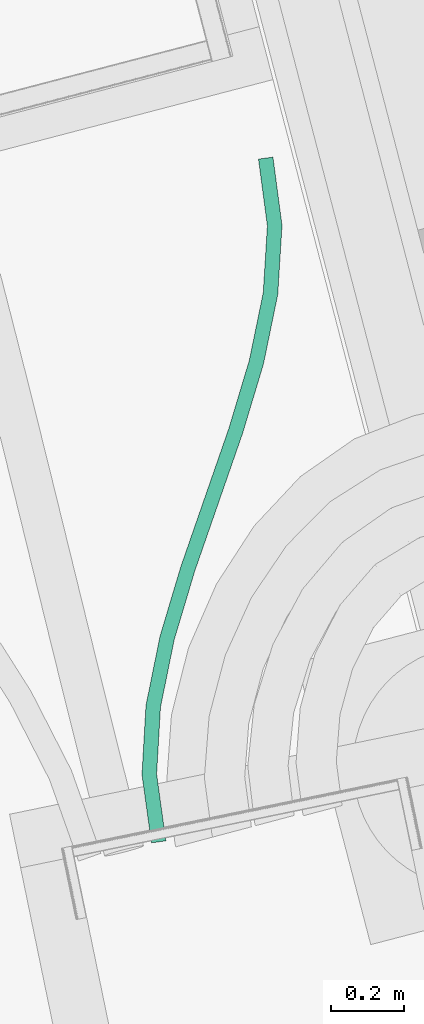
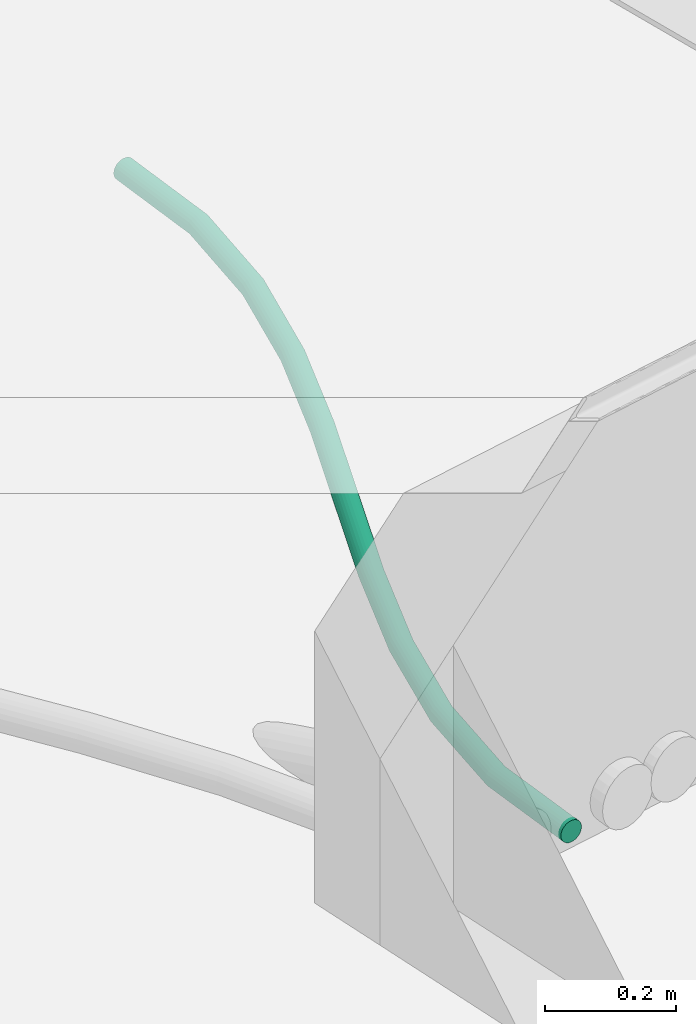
# One storey, part 22 of 29: 1 flow segment.
"""IFC2X3 building model written with IfcOpenShell, lengths in centimetres."""

from ifc_helpers import new_model, entity, si_unit, converted_unit, derived_unit, direction, frame, origin, place, context, subcontext, project, spatial, faceted_brep, type_object, element, save


model = new_model("IFC2X3")

# Units and contexts
model_context = context("Model", 3, precision=0.001, world=origin(), true_north=direction((6.12303176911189e-17, 1.0)))
body_context = subcontext(model_context, "Body", "Model", "MODEL_VIEW")
ifc_project = project(units=[si_unit("LENGTHUNIT", "METRE", prefix="CENTI"), si_unit("AREAUNIT", "SQUARE_METRE"), si_unit("VOLUMEUNIT", "CUBIC_METRE"), converted_unit("PLANEANGLEUNIT", "DEGREE", entity("IfcRatioMeasure", 0.0174532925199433), si_unit("PLANEANGLEUNIT", "RADIAN"), dimensions=[0, 0, 0, 0, 0, 0, 0]), si_unit("MASSUNIT", "GRAM", prefix="KILO"), derived_unit("MASSDENSITYUNIT", [(si_unit("MASSUNIT", "GRAM", prefix="KILO"), 1), (si_unit("LENGTHUNIT", "METRE"), -3)]), si_unit("TIMEUNIT", "SECOND"), si_unit("FREQUENCYUNIT", "HERTZ"), si_unit("THERMODYNAMICTEMPERATUREUNIT", "DEGREE_CELSIUS"), derived_unit("THERMALTRANSMITTANCEUNIT", [(si_unit("MASSUNIT", "GRAM", prefix="KILO"), 1), (si_unit("THERMODYNAMICTEMPERATUREUNIT", "KELVIN"), -1), (si_unit("TIMEUNIT", "SECOND"), -3)]), derived_unit("VOLUMETRICFLOWRATEUNIT", [(si_unit("LENGTHUNIT", "METRE"), 3), (si_unit("TIMEUNIT", "SECOND"), -1)]), si_unit("ELECTRICCURRENTUNIT", "AMPERE"), si_unit("ELECTRICVOLTAGEUNIT", "VOLT"), si_unit("POWERUNIT", "WATT"), si_unit("FORCEUNIT", "NEWTON"), si_unit("ILLUMINANCEUNIT", "LUX"), si_unit("LUMINOUSFLUXUNIT", "LUMEN"), si_unit("LUMINOUSINTENSITYUNIT", "CANDELA"), derived_unit("USERDEFINED", [(si_unit("MASSUNIT", "GRAM", prefix="KILO"), -1), (si_unit("LENGTHUNIT", "METRE"), -2), (si_unit("TIMEUNIT", "SECOND"), 3), (si_unit("LUMINOUSFLUXUNIT", "LUMEN"), 1)]), derived_unit("LINEARVELOCITYUNIT", [(si_unit("LENGTHUNIT", "METRE"), 1), (si_unit("TIMEUNIT", "SECOND"), -1)]), si_unit("PRESSUREUNIT", "PASCAL"), derived_unit("USERDEFINED", [(si_unit("LENGTHUNIT", "METRE"), -2), (si_unit("MASSUNIT", "GRAM", prefix="KILO"), 1), (si_unit("TIMEUNIT", "SECOND"), -2)])], contexts=[model_context])

# Site, building, storey
site_placement = place(None, origin())
site = spatial("IfcSite", under=ifc_project, at=site_placement, Name="Default", CompositionType="ELEMENT")
building_placement = place(site_placement, origin())
building = spatial("IfcBuilding", under=site, at=building_placement, Name="CAGE 03", CompositionType="ELEMENT")
storey_placement = place(building_placement, frame((0.0, 0.0, -34.0)))
storey = spatial("IfcBuildingStorey", under=building, at=storey_placement, Name="+3.66", CompositionType="ELEMENT", Elevation=-34.0000000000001)

# Flow segment
pipe_segment_type = type_object("IfcPipeSegmentType", Name="Canalisation souple arrondie:Flex - Round", PredefinedType="FLEXIBLESEGMENT")
flow_segment_placement = place(storey_placement, frame((11573.2993693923, 3540.52420539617, -78.9095290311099)))
element("IfcFlowSegment", 1, at=flow_segment_placement, inside=storey, type_object=pipe_segment_type, Name="Canalisation souple arrondie:Flex - Round", ObjectType="Canalisation souple arrondie:Flex - Round", context=body_context, shape_type="Brep", body=[
    faceted_brep([(32.123071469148, 187.746982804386, 2.15952683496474), (32.1905800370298, 187.756304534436, 2.67716482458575), (32.3885903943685, 187.782994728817, 3.15952664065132), (32.703608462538, 187.82523449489, 3.57374012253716), (33.1141662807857, 187.880145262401, 3.8915773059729), (33.5922850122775, 187.943984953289, 4.09137811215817), (34.1053816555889, 188.01240299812, 4.15952644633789), (34.618489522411, 188.080736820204, 4.09137811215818), (35.0966411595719, 188.144329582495, 3.8915773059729), (35.5072513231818, 188.198847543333, 3.57374012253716), (35.8223376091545, 188.240575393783, 3.15952664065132), (36.0204274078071, 188.266669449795, 2.67716482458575), (36.0880212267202, 188.275351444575, 2.15952683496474), (36.0205126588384, 188.266029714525, 1.64188884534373), (35.8225023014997, 188.239339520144, 1.15952702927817), (35.5074842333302, 188.197099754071, 0.745313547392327), (35.0969264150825, 188.14218898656, 0.427476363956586), (34.6188076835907, 188.078349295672, 0.227675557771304), (34.1057110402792, 188.009931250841, 0.15952722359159), (33.5926031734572, 187.941597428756, 0.227675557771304), (33.1144515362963, 187.878004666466, 0.427476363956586), (32.7038413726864, 187.823486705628, 0.745313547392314), (32.3887550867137, 187.781758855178, 1.15952702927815), (32.190665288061, 187.755664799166, 1.64188884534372), (38.5817940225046, 169.561743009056, 2.17129601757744), (38.5134449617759, 169.558728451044, 1.65365406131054), (38.3128960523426, 169.551087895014, 1.17128026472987), (37.993814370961, 169.539342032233, 0.757047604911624), (37.577944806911, 169.524291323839, 0.439185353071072), (37.0936281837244, 169.506961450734, 0.239355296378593), (36.5738698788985, 169.488533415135, 0.171175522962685), (36.0540905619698, 169.470263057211, 0.239292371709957), (35.569712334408, 169.453395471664, 0.439063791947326), (35.1537447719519, 169.439080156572, 0.756875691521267), (34.8345353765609, 169.428292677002, 1.17106971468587), (34.6338377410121, 169.42176818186, 1.653419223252), (34.5653290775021, 169.419951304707, 2.17105289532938), (34.6336781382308, 169.422965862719, 2.68869485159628), (34.8342270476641, 169.430606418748, 3.17106864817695), (35.1533087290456, 169.44235228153, 3.5853013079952), (36.0534949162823, 169.474732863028, 4.10299361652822), (36.5732532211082, 169.493160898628, 4.17117338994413), (35.5691782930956, 169.457402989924, 3.90316355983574), (37.0930325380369, 169.511431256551, 4.10305654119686), (37.5774107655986, 169.528298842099, 3.9032851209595), (37.9933783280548, 169.542614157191, 3.58547322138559), (38.3125877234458, 169.553401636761, 3.17127919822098), (38.5132853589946, 169.559926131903, 2.68892968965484), (2.75818244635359, 0.15952722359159, 2.57554056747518), (2.82571887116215, 0.168592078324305, 2.05790164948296), (3.02365067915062, 0.195810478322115, 1.57553711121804), (3.3384891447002, 0.23932753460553, 1.16131929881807), (3.74877854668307, 0.296177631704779, 0.843476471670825), (4.22655834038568, 0.362486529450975, 0.643669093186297), (4.73926862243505, 0.433735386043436, 0.57551370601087), (5.25196903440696, 0.505068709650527, 0.643654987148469), (5.72971989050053, 0.571625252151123, 0.843449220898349), (6.13996325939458, 0.628869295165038, 1.16128076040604), (6.4547417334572, 0.672899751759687, 1.57548991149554), (6.6526036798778, 0.700716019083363, 2.05784900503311), (6.7200651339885, 0.710422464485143, 2.57548606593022), (6.65252870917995, 0.701357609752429, 3.09312498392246), (6.45459690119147, 0.674139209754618, 3.57548952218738), (6.13975843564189, 0.630622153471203, 3.98970733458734), (5.72946903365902, 0.573772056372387, 4.30755016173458), (5.25168923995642, 0.507463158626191, 4.50735754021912), (4.73897895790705, 0.436214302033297, 4.57551292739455), (4.22627854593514, 0.364880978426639, 4.50737164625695), (3.74852768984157, 0.29832443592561, 4.30757741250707), (3.33828432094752, 0.241080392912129, 3.98974587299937), (3.02350584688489, 0.197049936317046, 3.57553672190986), (2.82564390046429, 0.169233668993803, 3.0931776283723), (37.4028673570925, 150.541544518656, 2.20347931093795), (37.3351976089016, 150.549489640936, 1.6858188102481), (37.1367004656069, 150.574951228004, 1.20338900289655), (36.8209031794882, 150.616194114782, 0.789066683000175), (36.4093268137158, 150.67040766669, 0.471087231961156), (35.9300196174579, 150.733897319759, 0.271120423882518), (35.4156455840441, 150.802336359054, 0.202793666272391), (34.9012584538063, 150.871060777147, 0.270763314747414), (34.4219128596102, 150.935387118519, 0.470397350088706), (34.0102754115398, 150.990931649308, 0.788091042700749), (33.6943985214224, 151.033909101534, 1.20219409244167), (33.4958086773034, 151.061390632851, 1.68448606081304), (33.428039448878, 151.071503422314, 2.20209954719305), (33.4957091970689, 151.063558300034, 2.71976004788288), (33.6942063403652, 151.038096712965, 3.20218985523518), (34.0100036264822, 150.996853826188, 3.61651217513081), (34.9008871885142, 150.879150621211, 4.13445843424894), (35.4152612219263, 150.810711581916, 4.20278519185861), (34.4215799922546, 150.94264027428, 3.93449162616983), (35.9296483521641, 150.741987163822, 4.1348155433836), (36.4089939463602, 150.677660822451, 3.93518150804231), (36.8206313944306, 150.622116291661, 3.61748781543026), (37.136508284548, 150.579138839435, 3.20338476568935), (37.3350981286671, 150.551657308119, 2.72109279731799), (33.4815052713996, 131.509066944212, 2.25062937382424), (33.4153539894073, 131.524381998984, 1.73295061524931), (33.2214433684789, 131.57210444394, 1.25046566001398), (32.9129880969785, 131.648982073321, 0.836055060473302), (32.5110088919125, 131.749775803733, 0.517960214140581), (32.0428999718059, 131.867616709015, 0.317858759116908), (31.5405621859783, 131.994474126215, 0.249387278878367), (31.0382290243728, 132.121702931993, 0.317211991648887), (30.5701336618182, 132.24063269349, 0.516710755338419), (30.1681760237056, 132.343158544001, 0.834288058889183), (29.8597488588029, 132.422293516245, 1.24830153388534), (29.6658709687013, 132.472644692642, 1.73053684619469), (29.599754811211, 132.490780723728, 2.24813045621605), (29.6659060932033, 132.475465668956, 2.76580921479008), (29.8598167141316, 132.427743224, 3.24829417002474), (30.168271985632, 132.350865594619, 3.66270476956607), (31.0383601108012, 132.132230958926, 4.18090107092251), (31.5406978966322, 132.005373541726, 4.24937255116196), (30.5702511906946, 132.250071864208, 3.98079961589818), (32.0430310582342, 131.878144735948, 4.18154783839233), (32.5111264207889, 131.759214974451, 3.98204907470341), (32.9130840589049, 131.65668912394, 3.66447177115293), (33.2215112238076, 131.577554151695, 3.25045829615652), (33.4153891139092, 131.527202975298, 2.76822298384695), (27.7614991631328, 112.496019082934, 2.30758064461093), (27.696583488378, 112.51544124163, 1.78988958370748), (27.5064054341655, 112.575570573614, 1.30736746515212), (27.2039253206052, 112.672309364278, 0.892897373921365), (26.8097566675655, 112.799065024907, 0.574724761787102), (26.3507614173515, 112.947199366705, 0.374532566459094), (25.8582193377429, 113.10661727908, 0.3059635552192), (25.3656963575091, 113.266454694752, 0.373690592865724), (24.9067571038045, 113.415818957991, 0.573098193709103), (24.5126775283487, 113.54453114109, 0.890597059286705), (24.2103135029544, 113.643819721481, 1.30455016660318), (24.0202706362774, 113.70691834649, 1.78674729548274), (23.9555000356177, 113.729526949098, 2.30432750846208), (24.0204157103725, 113.710104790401, 2.82201856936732), (24.2105937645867, 113.649975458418, 3.30454068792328), (24.5130738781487, 113.553236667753, 3.71901077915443), (25.3662377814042, 113.278346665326, 4.23737558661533), (25.8587798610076, 113.118928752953, 4.30594459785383), (24.9072425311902, 113.426481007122, 4.03718339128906), (26.3513028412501, 112.959091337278, 4.23821756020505), (26.8102420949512, 112.80972707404, 4.03880995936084), (27.2043216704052, 112.68101489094, 3.72131109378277), (27.5066856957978, 112.581726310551, 3.30735798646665), (27.6967285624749, 112.518627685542, 2.82516085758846), (21.103093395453, 93.5507492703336, 1.85158158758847), (20.9142865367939, 93.6148224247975, 1.36904667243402), (21.167555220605, 93.5300217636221, 2.36927683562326), (20.6140014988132, 93.7178747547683, 0.954556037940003), (20.2227021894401, 93.8528834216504, 0.636356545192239), (19.7670550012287, 94.0106478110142, 0.43613298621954), (19.2781115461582, 94.1804165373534, 0.367530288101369), (18.7891925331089, 94.3506201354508, 0.435223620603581), (18.3336170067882, 94.5096595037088, 0.634599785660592), (17.9424316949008, 94.6466963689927, 0.952071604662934), (17.6422952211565, 94.7523918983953, 1.36600387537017), (17.4536613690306, 94.8195431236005, 1.84818778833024), (17.3893852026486, 94.8435738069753, 2.36576331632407), (17.4538470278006, 94.8228463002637, 2.88345856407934), (17.6426538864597, 94.7587731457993, 3.36599347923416), (17.9429389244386, 94.6557208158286, 3.78048411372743), (18.3342382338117, 94.5207121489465, 4.09868360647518), (18.7898854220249, 94.3629477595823, 4.29890716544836), (19.2788288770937, 94.1931790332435, 4.36750986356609), (19.767747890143, 94.0229754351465, 4.29981653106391), (20.2233234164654, 93.8639360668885, 4.10044036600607), (20.6145087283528, 93.7268992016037, 3.78296854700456), (20.914645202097, 93.621203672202, 3.36903627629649), (21.1032790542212, 93.5540524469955, 2.88685236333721), (14.5486629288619, 74.6682659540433, 1.91301546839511), (14.3584196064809, 74.7282010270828, 1.43049398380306), (14.6136010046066, 74.6489103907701, 2.43070631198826), (14.0558358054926, 74.8246311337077, 1.01602489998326), (13.2023796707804, 75.0986510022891, 0.497662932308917), (12.7096689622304, 75.2575667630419, 0.429095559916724), (13.6615321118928, 74.9509847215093, 0.697853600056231), (12.2169774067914, 75.4169021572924, 0.496824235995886), (11.7578811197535, 75.5657987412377, 0.696233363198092), (11.3636667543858, 75.6941094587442, 1.01373353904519), (11.0611993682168, 75.7930901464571, 1.42768765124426), (10.871091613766, 75.8559954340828, 1.90988541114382), (10.8062990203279, 75.8785384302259, 2.42746583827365), (10.8712370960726, 75.8591828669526, 2.94515668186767), (11.0614804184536, 75.7992477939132, 3.42767816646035), (11.3640642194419, 75.7028176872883, 3.84214725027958), (11.7583679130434, 75.5764640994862, 4.16031855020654), (12.2175203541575, 75.428797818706, 4.36050921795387), (12.7102310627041, 75.2698820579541, 4.42907659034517), (13.2029226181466, 75.1105466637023, 4.36134791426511), (13.6620189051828, 74.9616500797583, 4.16193878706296), (14.0562332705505, 74.8333393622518, 3.84443861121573), (14.3587006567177, 74.7343586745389, 3.43048449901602), (14.5488084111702, 74.6714533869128, 2.94828673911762), (8.93814628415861, 55.9137901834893, 1.96921812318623), (8.74412385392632, 55.9610926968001, 1.48673449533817), (9.00433610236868, 55.8986188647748, 2.48689642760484), (8.43549111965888, 56.0373028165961, 1.0723260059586), (7.5649031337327, 56.2540554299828, 0.554135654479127), (7.06227701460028, 56.3798265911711, 0.485667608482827), (8.03328089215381, 56.1372269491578, 0.754233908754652), (6.55965567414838, 56.5059693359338, 0.553495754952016), (6.09129192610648, 56.6238872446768, 0.752997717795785), (5.68910398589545, 56.7255444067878, 1.07057776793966), (5.38050029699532, 56.8040130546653, 1.48459334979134), (5.18651169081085, 56.8539456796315, 1.96682998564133), (5.12035817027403, 56.8719394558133, 2.48442404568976), (5.18654798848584, 56.8567681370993, 3.00210235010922), (5.38057041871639, 56.809465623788, 3.48458597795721), (5.68920315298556, 56.7332555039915, 3.89899446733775), (6.09141338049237, 56.6333313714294, 4.21708656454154), (6.55979113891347, 56.5165028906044, 4.4171848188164), (7.06241725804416, 56.3907317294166, 4.48565286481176), (7.5650385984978, 56.2645889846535, 4.4178247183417), (8.03340234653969, 56.1466710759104, 4.21832275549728), (8.43559028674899, 56.0450139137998, 3.90074270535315), (8.74419397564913, 55.9665452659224, 3.48672712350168), (8.93818258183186, 55.9166126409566, 3.00449048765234), (5.16579788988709, 37.3428806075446, 2.01526024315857), (4.96719741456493, 37.3676458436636, 1.53283249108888), (5.23350391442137, 37.3351734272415, 2.53292004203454), (4.65123678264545, 37.407781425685, 1.11851343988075), (3.759894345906, 37.5223618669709, 0.600576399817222), (3.2452560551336, 37.5889982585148, 0.532254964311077), (4.23944818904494, 37.4605521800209, 0.800538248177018), (2.73060506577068, 37.655920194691, 0.600229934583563), (2.25101399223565, 37.718567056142, 0.799868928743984), (1.839166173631, 37.7726695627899, 1.1175668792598), (1.52312835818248, 37.8145407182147, 1.53167319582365), (1.32443800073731, 37.841327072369, 2.01396721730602), (1.2566355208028, 37.8512031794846, 2.53158140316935), (1.32434154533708, 37.8434959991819, 3.04924120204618), (1.52294202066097, 37.8187307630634, 3.53166895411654), (1.83890265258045, 37.7785951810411, 3.94598800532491), (2.25069124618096, 37.7258244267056, 4.26396319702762), (2.73024508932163, 37.6640147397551, 4.46392504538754), (3.24488338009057, 37.5973783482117, 4.53224648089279), (3.75953436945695, 37.5304564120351, 4.46427151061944), (4.23912544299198, 37.4678095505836, 4.26463251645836), (4.6509732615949, 37.4137070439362, 3.94693456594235), (4.96701107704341, 37.3718358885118, 3.53282824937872), (5.16570143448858, 37.3450495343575, 3.05053422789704), (4.10717989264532, 19.0066824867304, 2.04631993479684), (3.9066510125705, 18.9980460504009, 1.56394876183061), (4.17552455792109, 19.0100371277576, 2.56396099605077), (3.58760362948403, 18.9847163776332, 1.14972027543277), (2.68751868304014, 18.9478688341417, 0.632039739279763), (2.16782042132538, 18.9268620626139, 0.563866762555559), (3.1717802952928, 18.9676018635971, 0.831863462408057), (1.648102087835, 18.9060131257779, 0.631990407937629), (1.16378162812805, 18.8867428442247, 0.831768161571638), (0.747864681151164, 18.8703644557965, 1.1495854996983), (0.428695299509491, 18.8579941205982, 1.56378369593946), (0.228024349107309, 18.8504748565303, 2.04613582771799), (0.15952722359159, 18.8483190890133, 2.56377039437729), (0.227871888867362, 18.8516737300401, 3.08141145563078), (0.428400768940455, 18.8603101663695, 3.56378262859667), (0.747448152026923, 18.8736398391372, 3.97801111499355), (1.16327148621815, 18.8907543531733, 4.29586792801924), (1.64753309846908, 18.9104873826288, 4.49569165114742), (2.16723136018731, 18.9314941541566, 4.5638646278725), (2.68694969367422, 18.9523430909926, 4.49574098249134), (3.1712701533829, 18.9716133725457, 4.29596322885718), (3.58718710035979, 18.9879917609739, 3.97814589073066), (3.90635648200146, 19.0003620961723, 3.56394769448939), (4.10702743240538, 19.0078813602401, 3.08159556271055)], [[[0, 1, 2, 3, 4, 5, 6, 7, 8, 9, 10, 11, 12, 13, 14, 15, 16, 17, 18, 19, 20, 21, 22, 23]], [[12, 24, 25, 13]], [[13, 25, 26, 14]], [[14, 26, 27, 15]], [[15, 27, 28, 16]], [[16, 28, 29, 17]], [[30, 18, 17, 29]], [[31, 32, 20, 19]], [[30, 31, 19, 18]], [[20, 32, 33, 21]], [[34, 35, 23, 22]], [[34, 22, 21, 33]], [[36, 0, 23, 35]], [[37, 38, 2, 1]], [[36, 37, 1, 0]], [[38, 39, 3, 2]], [[40, 41, 6, 5]], [[42, 40, 5, 4]], [[39, 42, 4, 3]], [[7, 6, 41, 43]], [[8, 7, 43, 44]], [[44, 45, 9, 8]], [[11, 10, 46, 47]], [[12, 11, 47, 24]], [[45, 46, 10, 9]], [[48, 49, 50, 51, 52, 53, 54, 55, 56, 57, 58, 59, 60, 61, 62, 63, 64, 65, 66, 67, 68, 69, 70, 71]], [[25, 24, 72, 73]], [[26, 25, 73, 74]], [[74, 75, 27, 26]], [[28, 27, 75, 76]], [[29, 28, 76, 77]], [[30, 29, 77, 78]], [[79, 80, 32, 31]], [[78, 79, 31, 30]], [[33, 32, 80, 81]], [[82, 83, 35, 34]], [[81, 82, 34, 33]], [[36, 35, 83, 84]], [[85, 86, 38, 37]], [[84, 85, 37, 36]], [[87, 39, 38, 86]], [[88, 89, 41, 40]], [[90, 88, 40, 42]], [[90, 42, 39, 87]], [[41, 89, 91, 43]], [[43, 91, 92, 44]], [[93, 45, 44, 92]], [[46, 94, 95, 47]], [[47, 95, 72, 24]], [[94, 46, 45, 93]], [[73, 72, 96, 97]], [[74, 73, 97, 98]], [[98, 99, 75, 74]], [[76, 75, 99, 100]], [[77, 76, 100, 101]], [[78, 77, 101, 102]], [[103, 104, 80, 79]], [[102, 103, 79, 78]], [[81, 80, 104, 105]], [[106, 107, 83, 82]], [[105, 106, 82, 81]], [[84, 83, 107, 108]], [[109, 110, 86, 85]], [[108, 109, 85, 84]], [[111, 87, 86, 110]], [[112, 113, 89, 88]], [[114, 112, 88, 90]], [[114, 90, 87, 111]], [[89, 113, 115, 91]], [[91, 115, 116, 92]], [[117, 93, 92, 116]], [[94, 118, 119, 95]], [[95, 119, 96, 72]], [[118, 94, 93, 117]], [[97, 96, 120, 121]], [[98, 97, 121, 122]], [[122, 123, 99, 98]], [[100, 99, 123, 124]], [[101, 100, 124, 125]], [[102, 101, 125, 126]], [[127, 128, 104, 103]], [[126, 127, 103, 102]], [[105, 104, 128, 129]], [[130, 131, 107, 106]], [[129, 130, 106, 105]], [[108, 107, 131, 132]], [[133, 134, 110, 109]], [[132, 133, 109, 108]], [[135, 111, 110, 134]], [[136, 137, 113, 112]], [[138, 136, 112, 114]], [[138, 114, 111, 135]], [[113, 137, 139, 115]], [[115, 139, 140, 116]], [[141, 117, 116, 140]], [[118, 142, 143, 119]], [[119, 143, 120, 96]], [[142, 118, 117, 141]], [[122, 144, 145]], [[123, 122, 145]], [[120, 146, 121]], [[121, 146, 144]], [[144, 122, 121]], [[145, 147, 123]], [[125, 148, 149]], [[126, 149, 150]], [[147, 124, 123]], [[124, 148, 125]], [[149, 126, 125]], [[124, 147, 148]], [[127, 150, 151]], [[128, 151, 152]], [[127, 126, 150]], [[129, 128, 152]], [[127, 151, 128]], [[152, 153, 129]], [[131, 154, 155]], [[132, 155, 156]], [[153, 130, 129]], [[153, 154, 130]], [[130, 154, 131]], [[155, 132, 131]], [[133, 157, 158]], [[134, 158, 159]], [[156, 157, 132]], [[132, 157, 133]], [[158, 134, 133]], [[159, 135, 134]], [[138, 160, 161]], [[136, 161, 162]], [[138, 135, 160]], [[137, 136, 162]], [[138, 161, 136]], [[160, 135, 159]], [[137, 162, 163]], [[139, 163, 164]], [[137, 163, 139]], [[140, 139, 164]], [[165, 141, 140]], [[140, 164, 165]], [[142, 166, 167]], [[143, 167, 146]], [[166, 141, 165]], [[166, 142, 141]], [[142, 167, 143]], [[146, 120, 143]], [[168, 169, 145]], [[170, 168, 144]], [[144, 146, 170]], [[147, 145, 169]], [[144, 168, 145]], [[169, 171, 147]], [[172, 173, 150]], [[174, 172, 149]], [[171, 148, 147]], [[171, 174, 148]], [[148, 174, 149]], [[172, 150, 149]], [[151, 173, 175]], [[152, 175, 176]], [[150, 173, 151]], [[152, 151, 175]], [[153, 152, 176]], [[176, 177, 153]], [[155, 178, 179]], [[156, 179, 180]], [[177, 154, 153]], [[177, 178, 154]], [[154, 178, 155]], [[179, 156, 155]], [[156, 180, 181]], [[157, 181, 182]], [[156, 181, 157]], [[157, 182, 158]], [[158, 183, 159]], [[158, 182, 183]], [[159, 184, 160]], [[160, 184, 185]], [[160, 185, 161]], [[186, 162, 161]], [[185, 186, 161]], [[184, 159, 183]], [[187, 188, 163]], [[186, 187, 162]], [[163, 162, 187]], [[189, 165, 164]], [[163, 188, 164]], [[164, 188, 189]], [[190, 191, 166]], [[190, 166, 165]], [[166, 191, 167]], [[170, 146, 167]], [[191, 170, 167]], [[190, 165, 189]], [[192, 193, 169, 168]], [[194, 192, 168, 170]], [[171, 169, 193, 195]], [[196, 197, 173, 172]], [[198, 196, 172, 174]], [[195, 198, 174, 171]], [[175, 173, 197, 199]], [[176, 175, 199, 200]], [[177, 176, 200, 201]], [[179, 178, 202, 203]], [[180, 179, 203, 204]], [[201, 202, 178, 177]], [[180, 204, 205, 181]], [[181, 205, 206, 182]], [[182, 206, 207, 183]], [[183, 207, 208, 184]], [[184, 208, 209, 185]], [[210, 186, 185, 209]], [[211, 212, 188, 187]], [[210, 211, 187, 186]], [[213, 189, 188, 212]], [[214, 215, 191, 190]], [[214, 190, 189, 213]], [[194, 170, 191, 215]], [[216, 217, 193, 192]], [[218, 216, 192, 194]], [[195, 193, 217, 219]], [[220, 221, 197, 196]], [[222, 220, 196, 198]], [[219, 222, 198, 195]], [[199, 197, 221, 223]], [[200, 199, 223, 224]], [[201, 200, 224, 225]], [[203, 202, 226, 227]], [[204, 203, 227, 228]], [[225, 226, 202, 201]], [[204, 228, 229, 205]], [[205, 229, 230, 206]], [[206, 230, 231, 207]], [[207, 231, 232, 208]], [[208, 232, 233, 209]], [[234, 210, 209, 233]], [[235, 236, 212, 211]], [[234, 235, 211, 210]], [[237, 213, 212, 236]], [[238, 239, 215, 214]], [[238, 214, 213, 237]], [[218, 194, 215, 239]], [[240, 241, 217, 216]], [[242, 240, 216, 218]], [[219, 217, 241, 243]], [[244, 245, 221, 220]], [[246, 244, 220, 222]], [[243, 246, 222, 219]], [[223, 221, 245, 247]], [[224, 223, 247, 248]], [[225, 224, 248, 249]], [[227, 226, 250, 251]], [[228, 227, 251, 252]], [[249, 250, 226, 225]], [[228, 252, 253, 229]], [[229, 253, 254, 230]], [[230, 254, 255, 231]], [[231, 255, 256, 232]], [[232, 256, 257, 233]], [[258, 234, 233, 257]], [[259, 260, 236, 235]], [[258, 259, 235, 234]], [[261, 237, 236, 260]], [[262, 263, 239, 238]], [[262, 238, 237, 261]], [[242, 218, 239, 263]], [[59, 58, 241, 240]], [[60, 59, 240, 242]], [[57, 243, 241, 58]], [[246, 56, 55, 244]], [[244, 55, 54, 245]], [[56, 246, 243, 57]], [[245, 54, 53, 247]], [[247, 53, 52, 248]], [[51, 249, 248, 52]], [[250, 50, 49, 251]], [[251, 49, 48, 252]], [[50, 250, 249, 51]], [[253, 252, 48, 71]], [[254, 253, 71, 70]], [[70, 69, 255, 254]], [[257, 256, 68, 67]], [[258, 257, 67, 66]], [[69, 68, 256, 255]], [[259, 258, 66, 65]], [[260, 259, 65, 64]], [[261, 260, 64, 63]], [[263, 262, 62, 61]], [[242, 263, 61, 60]], [[63, 62, 262, 261]]]),
])

save(model, "model.ifc")
